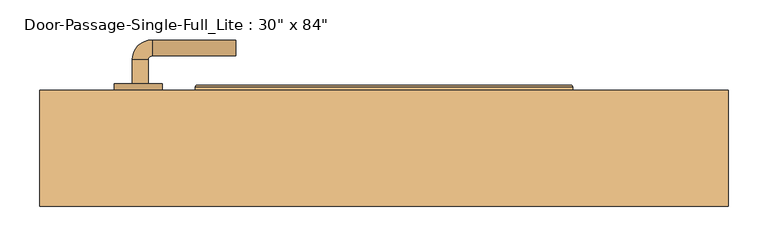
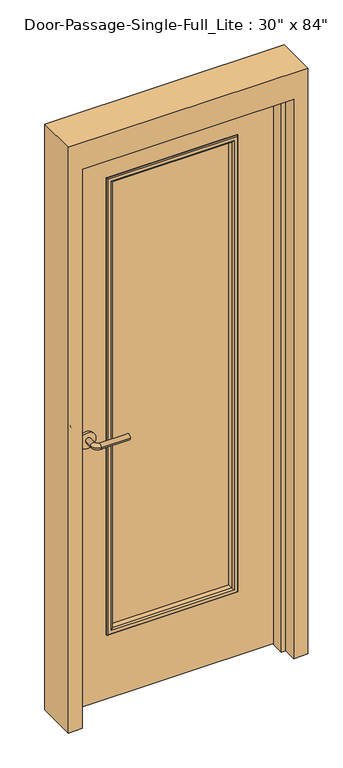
"""IFC4 building model written with IfcOpenShell, lengths in millimetres: door geometry."""

from ifc_helpers import new_model, si_unit, point, frame, frame_2d, origin, place, context, project, spatial, polyline, circle_curve, ellipse_curve, trimmed, segment, composite_curve, outline, extrude, faceted_brep, source, transform, mapped, element, save
from ifc_brep_helpers import plane_surface, cylinder_surface, revolved_surface, advanced_brep


def door_74639fb8(model_context):
    return source(origin(), model_context, "Body", "SolidModel", [
        advanced_brep(
        [(-315.990625, -1.65, 1016.0), (-295.990625, -1.65, 1016.0), (-295.990625, -31.65, 1016.0), (-315.990625, -31.65, 1016.0), (-290.990625, -36.65, 1016.0), (-290.990625, -56.65, 1016.0), (-185.990625, -56.65, 1016.0), (-185.990625, -36.65, 1016.0)],
        [
            (0, 1, circle_curve(frame((-305.990625, -1.65, 1016.0), z_axis=(0.0, 1.0, 0.0), x_axis=(1.0, 0.0, 0.0)), 10.0)),
            (1, 0, circle_curve(frame((-305.990625, -1.65, 1016.0), z_axis=(0.0, 1.0, 0.0), x_axis=(1.0, 0.0, 0.0)), 10.0)),
            (1, 2),
            (2, 3, circle_curve(frame((-305.990625, -31.65, 1016.0), z_axis=(0.0, 1.0, 0.0), x_axis=(1.0, 0.0, 0.0)), 10.0)),
            (3, 0),
            (3, 2, circle_curve(frame((-305.990625, -31.65, 1016.0), z_axis=(0.0, 1.0, 0.0), x_axis=(1.0, 0.0, 0.0)), 10.0)),
            (4, 5, circle_curve(frame((-290.990625, -46.65, 1016.0), z_axis=(-1.0, 0.0, 0.0), x_axis=(0.0, 1.0, 0.0)), 10.0)),
            (5, 3, circle_curve(frame((-290.990625, -31.65, 1016.0), z_axis=(0.0, 0.0, -1.0), x_axis=(-1.0, 0.0, 0.0)), 25.0)),
            (2, 4, circle_curve(frame((-290.990625, -31.65, 1016.0), z_axis=(0.0, 0.0, 1.0), x_axis=(-1.0, 0.0, 0.0)), 5.0)),
            (5, 4, circle_curve(frame((-290.990625, -46.65, 1016.0), z_axis=(-1.0, 0.0, 0.0), x_axis=(0.0, 1.0, 0.0)), 10.0)),
            (6, 7, circle_curve(frame((-185.990625, -46.65, 1016.0), z_axis=(1.0, 0.0, 0.0), x_axis=(0.0, 1.0, 0.0)), 10.0)),
            (7, 6, circle_curve(frame((-185.990625, -46.65, 1016.0), z_axis=(1.0, 0.0, 0.0), x_axis=(0.0, 1.0, 0.0)), 10.0)),
            (4, 7),
            (6, 5),
        ],
        [
            plane_surface(frame((-305.990625, -1.65, 1016.0), z_axis=(0.0, 1.0, 0.0), x_axis=(0.0, 0.0, 1.0))),
            cylinder_surface(frame((-305.990625, -1.65, 1016.0), z_axis=(0.0, 1.0, 0.0), x_axis=(1.0, 0.0, 0.0)), 10.0),
            revolved_surface(trimmed(ellipse_curve(frame((-305.990625, -31.65, 1016.0), z_axis=(0.0, -1.0, 0.0), x_axis=(1.0, 0.0, 0.0)), 10.0, 10.0), [point((-315.990625, -31.65, 1016.0))], [point((-295.990625, -31.65, 1016.0))], True, "CARTESIAN"), (-290.990625, -31.65, 1016.0), (0.0, 0.0, -1.0)),
            revolved_surface(trimmed(ellipse_curve(frame((-305.990625, -31.65, 1016.0), z_axis=(0.0, -1.0, 0.0), x_axis=(1.0, 0.0, 0.0)), 10.0, 10.0), [point((-295.990625, -31.65, 1016.0))], [point((-315.990625, -31.65, 1016.0))], True, "CARTESIAN"), (-290.990625, -31.65, 1016.0), (0.0, 0.0, -1.0)),
            plane_surface(frame((-185.990625, -46.65, 1016.0), z_axis=(1.0, 0.0, 0.0), x_axis=(0.0, 0.0, 1.0))),
            cylinder_surface(frame((-290.990625, -46.65, 1016.0), z_axis=(-1.0, 0.0, 0.0), x_axis=(0.0, 1.0, 0.0)), 10.0),
        ],
        [
            (0, [[1, 2]]),
            (1, [[3, 4, 5, -2]]),
            (1, [[-5, 6, -3, -1]]),
            (2, [[7, 8, -4, 9]]),
            (3, [[10, -9, -6, -8]]),
            (4, [[11, 12]]),
            (5, [[13, -11, 14, -7]]),
            (5, [[-14, -12, -13, -10]]),
        ],
    ),
        extrude(outline(composite_curve([segment(trimmed(circle_curve(frame_2d((1016.0, -308.490625)), 30.0), [point((1016.0, -338.490625))], [point((1016.0, -278.490625))], False, "CARTESIAN"), True, "CONTINUOUS"), segment(trimmed(circle_curve(frame_2d((1016.0, -308.490625)), 30.0), [point((1016.0, -278.490625))], [point((1016.0, -338.490625))], False, "CARTESIAN"), True, "CONTINUOUS")], self_intersect=False)), frame((0.0, -1.65, 0.0), z_axis=(0.0, 1.0, 0.0), x_axis=(0.0, 0.0, 1.0)), (0.0, 0.0, 1.0), 8.0),
        advanced_brep(
        [(-315.990625, 58.8, 1016.0), (-295.990625, 58.8, 1016.0), (-315.990625, 88.8, 1016.0), (-295.990625, 88.8, 1016.0), (-290.990625, 93.8, 1016.0), (-290.990625, 113.8, 1016.0), (-185.990625, 113.8, 1016.0), (-185.990625, 93.8, 1016.0)],
        [
            (0, 1, circle_curve(frame((-305.990625, 58.8, 1016.0), z_axis=(0.0, -1.0, 0.0), x_axis=(1.0, 0.0, 0.0)), 10.0)),
            (1, 0, circle_curve(frame((-305.990625, 58.8, 1016.0), z_axis=(0.0, -1.0, 0.0), x_axis=(1.0, 0.0, 0.0)), 10.0)),
            (0, 2),
            (2, 3, circle_curve(frame((-305.990625, 88.8, 1016.0), z_axis=(0.0, -1.0, 0.0), x_axis=(1.0, 0.0, 0.0)), 10.0)),
            (3, 1),
            (3, 2, circle_curve(frame((-305.990625, 88.8, 1016.0), z_axis=(0.0, -1.0, 0.0), x_axis=(1.0, 0.0, 0.0)), 10.0)),
            (4, 3, circle_curve(frame((-290.990625, 88.8, 1016.0), z_axis=(0.0, 0.0, 1.0), x_axis=(-1.0, 0.0, 0.0)), 5.0)),
            (2, 5, circle_curve(frame((-290.990625, 88.8, 1016.0), z_axis=(0.0, 0.0, -1.0), x_axis=(-1.0, 0.0, 0.0)), 25.0)),
            (5, 4, circle_curve(frame((-290.990625, 103.8, 1016.0), z_axis=(-1.0, 0.0, 0.0), x_axis=(0.0, -1.0, 0.0)), 10.0)),
            (4, 5, circle_curve(frame((-290.990625, 103.8, 1016.0), z_axis=(-1.0, 0.0, 0.0), x_axis=(0.0, -1.0, 0.0)), 10.0)),
            (6, 7, circle_curve(frame((-185.990625, 103.8, 1016.0), z_axis=(1.0, 0.0, 0.0), x_axis=(0.0, -1.0, 0.0)), 10.0)),
            (7, 6, circle_curve(frame((-185.990625, 103.8, 1016.0), z_axis=(1.0, 0.0, 0.0), x_axis=(0.0, -1.0, 0.0)), 10.0)),
            (5, 6),
            (7, 4),
        ],
        [
            plane_surface(frame((-305.990625, 58.8, 1016.0), z_axis=(0.0, -1.0, 0.0), x_axis=(0.0, 0.0, 1.0))),
            cylinder_surface(frame((-305.990625, 58.8, 1016.0), z_axis=(0.0, -1.0, 0.0), x_axis=(1.0, 0.0, 0.0)), 10.0),
            revolved_surface(trimmed(ellipse_curve(frame((-305.990625, 88.8, 1016.0), z_axis=(0.0, -1.0, 0.0), x_axis=(1.0, 0.0, 0.0)), 10.0, 10.0), [point((-315.990625, 88.8, 1016.0))], [point((-295.990625, 88.8, 1016.0))], True, "CARTESIAN"), (-290.990625, 88.8, 1016.0), (0.0, 0.0, -1.0)),
            revolved_surface(trimmed(ellipse_curve(frame((-305.990625, 88.8, 1016.0), z_axis=(0.0, -1.0, 0.0), x_axis=(1.0, 0.0, 0.0)), 10.0, 10.0), [point((-295.990625, 88.8, 1016.0))], [point((-315.990625, 88.8, 1016.0))], True, "CARTESIAN"), (-290.990625, 88.8, 1016.0), (0.0, 0.0, -1.0)),
            plane_surface(frame((-185.990625, 103.8, 1016.0), z_axis=(1.0, 0.0, 0.0), x_axis=(0.0, 0.0, 1.0))),
            cylinder_surface(frame((-290.990625, 103.8, 1016.0), z_axis=(-1.0, 0.0, 0.0), x_axis=(0.0, -1.0, 0.0)), 10.0),
        ],
        [
            (0, [[1, 2]]),
            (1, [[-1, 3, 4, 5]]),
            (1, [[-2, -5, 6, -3]]),
            (2, [[7, -4, 8, 9]]),
            (3, [[-8, -6, -7, 10]]),
            (4, [[11, 12]]),
            (5, [[-9, 13, -12, 14]]),
            (5, [[-10, -14, -11, -13]]),
        ],
    ),
        extrude(outline(composite_curve([segment(trimmed(circle_curve(frame_2d((1016.0, -308.490625)), 30.0), [point((1016.0, -338.490625))], [point((1016.0, -278.490625))], False, "CARTESIAN"), True, "CONTINUOUS"), segment(trimmed(circle_curve(frame_2d((1016.0, -308.490625)), 30.0), [point((1016.0, -278.490625))], [point((1016.0, -338.490625))], False, "CARTESIAN"), True, "CONTINUOUS")], self_intersect=False)), frame((0.0, 50.8, 0.0), z_axis=(0.0, 1.0, 0.0), x_axis=(0.0, 0.0, 1.0)), (0.0, 0.0, 1.0), 8.0),
        extrude(outline(polyline([(228.6, 25.4), (-228.6, 25.4), (-228.6, 31.75), (228.6, 31.75), (228.6, 25.4)])), frame((0.0, 0.0, 254.0), z_axis=(0.0, 0.0, 1.0), x_axis=(1.0, 0.0, 0.0)), (0.0, 0.0, 1.0), 1727.2),
        faceted_brep([(381.0, 1.5875, 0.0), (381.0, 50.8, 0.0), (431.8, 50.8, 0.0), (431.8, -95.25, 0.0), (381.0, -95.25, 0.0), (381.0, -46.0375, 0.0), (365.125, -46.0375, 0.0), (365.125, 1.5875, 0.0), (381.0, 1.5875, 2133.6), (381.0, 50.8, 2133.6), (-381.0, 50.8, 2133.6), (-381.0, 50.8, 0.0), (-431.8, 50.8, 0.0), (-431.8, 50.8, 2235.2), (431.8, 50.8, 2235.2), (431.8, -95.25, 2235.2), (-431.8, -95.25, 2235.2), (-431.8, -95.25, 0.0), (-381.0, -95.25, 0.0), (-381.0, -95.25, 2133.6), (381.0, -95.25, 2133.6), (381.0, -46.0375, 2133.6), (-381.0, -46.0375, 2133.6), (-381.0, -46.0375, 0.0), (-365.125, -46.0375, 0.0), (-365.125, -46.0375, 2117.725), (365.125, -46.0375, 2117.725), (365.125, 1.5875, 2117.725), (-365.125, 1.5875, 2117.725), (-365.125, 1.5875, 0.0), (-381.0, 1.5875, 0.0), (-381.0, 1.5875, 2133.6)], [[[0, 1, 2, 3, 4, 5, 6, 7]], [[1, 0, 8, 9]], [[2, 1, 9, 10, 11, 12, 13, 14]], [[3, 2, 14, 15]], [[4, 3, 15, 16, 17, 18, 19, 20]], [[5, 4, 20, 21]], [[6, 5, 21, 22, 23, 24, 25, 26]], [[7, 6, 26, 27]], [[0, 7, 27, 28, 29, 30, 31, 8]], [[9, 8, 31, 10]], [[20, 19, 22, 21]], [[26, 25, 28, 27]], [[12, 11, 30, 29, 24, 23, 18, 17]], [[11, 10, 31, 30]], [[13, 12, 17, 16]], [[19, 18, 23, 22]], [[25, 24, 29, 28]], [[15, 14, 13, 16]]]),
        extrude(outline(polyline([(2133.6, -381.0), (0.0, -381.0), (0.0, 381.0), (2133.6, 381.0), (2133.6, -381.0)]), holes=[polyline([(1981.2, -228.6), (1981.2, 228.6), (254.0, 228.6), (254.0, -228.6), (1981.2, -228.6)])]), frame((0.0, 6.35, 0.0), z_axis=(0.0, 1.0, 0.0), x_axis=(0.0, 0.0, 1.0)), (0.0, 0.0, 1.0), 44.45),
        advanced_brep(
        [(-228.6, 31.75, 1981.2), (-228.6, 50.8, 1981.2), (-228.6, 50.8, 254.0), (-228.6, 31.75, 254.0), (-216.6, 51.8, 1969.2), (-216.6, 31.75, 1969.2), (-216.6, 31.75, 266.0), (-216.6, 51.8, 266.0), (-221.6, 56.8, 1974.2), (-221.6, 56.8, 261.0), (-236.6, 54.8, 1989.2), (-234.6, 56.8, 1987.2), (-234.6, 56.8, 248.0), (-236.6, 54.8, 246.0), (-236.6, 50.8, 1989.2), (-236.6, 50.8, 246.0), (228.6, 50.8, 254.0), (228.6, 31.75, 254.0), (216.6, 31.75, 266.0), (216.6, 51.8, 266.0), (221.6, 56.8, 261.0), (234.6, 56.8, 248.0), (236.6, 54.8, 246.0), (236.6, 50.8, 246.0), (228.6, 50.8, 1981.2), (228.6, 31.75, 1981.2), (216.6, 31.75, 1969.2), (216.6, 51.8, 1969.2), (221.6, 56.8, 1974.2), (234.6, 56.8, 1987.2), (236.6, 54.8, 1989.2), (236.6, 50.8, 1989.2)],
        [
            (0, 1),
            (1, 2),
            (2, 3),
            (3, 0),
            (4, 5),
            (5, 6),
            (6, 7),
            (7, 4),
            (8, 4, ellipse_curve(frame((-221.6, 51.8, 1974.2), z_axis=(-0.7071067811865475, 0.0, -0.7071067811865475), x_axis=(-0.7071067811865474, 0.0, 0.7071067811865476)), 7.0710678, 5.0)),
            (7, 9, ellipse_curve(frame((-221.6, 51.8, 261.0), z_axis=(-0.7071067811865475, 0.0, 0.7071067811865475), x_axis=(0.7071067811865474, 0.0, 0.7071067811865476)), 7.0710678, 5.0)),
            (9, 8),
            (10, 11, ellipse_curve(frame((-234.6, 54.8, 1987.2), z_axis=(-0.7071067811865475, 0.0, -0.7071067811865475), x_axis=(-0.7071067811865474, 0.0, 0.7071067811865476)), 2.8284271, 2.0)),
            (11, 12),
            (12, 13, ellipse_curve(frame((-234.6, 54.8, 248.0), z_axis=(-0.7071067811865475, 0.0, 0.7071067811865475), x_axis=(0.7071067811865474, 0.0, 0.7071067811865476)), 2.8284271, 2.0)),
            (13, 10),
            (14, 10),
            (13, 15),
            (15, 14),
            (2, 16),
            (16, 17),
            (17, 3),
            (6, 18),
            (18, 19),
            (19, 7),
            (19, 20, ellipse_curve(frame((221.6, 51.8, 261.0), z_axis=(-0.7071067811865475, 0.0, -0.7071067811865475), x_axis=(-0.7071067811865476, 0.0, 0.7071067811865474)), 7.0710678, 5.0)),
            (20, 9),
            (12, 21),
            (21, 22, ellipse_curve(frame((234.6, 54.8, 248.0), z_axis=(-0.7071067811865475, 0.0, -0.7071067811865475), x_axis=(-0.7071067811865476, 0.0, 0.7071067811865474)), 2.8284271, 2.0)),
            (22, 13),
            (22, 23),
            (23, 15),
            (16, 24),
            (24, 25),
            (25, 17),
            (18, 26),
            (26, 27),
            (27, 19),
            (27, 28, ellipse_curve(frame((221.6, 51.8, 1974.2), z_axis=(0.7071067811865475, 0.0, -0.7071067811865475), x_axis=(-0.7071067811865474, 0.0, -0.7071067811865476)), 7.0710678, 5.0)),
            (28, 20),
            (21, 29),
            (29, 30, ellipse_curve(frame((234.6, 54.8, 1987.2), z_axis=(0.7071067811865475, 0.0, -0.7071067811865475), x_axis=(-0.7071067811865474, 0.0, -0.7071067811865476)), 2.8284271, 2.0)),
            (30, 22),
            (30, 31),
            (31, 23),
            (31, 14),
            (1, 24),
            (0, 25),
            (5, 26),
            (4, 27),
            (8, 28),
            (11, 29),
            (10, 30),
        ],
        [
            plane_surface(frame((-228.6, 50.8, 1981.2), z_axis=(-1.0, 0.0, 0.0), x_axis=(0.0, 0.0, -1.0))),
            plane_surface(frame((-216.6, 31.75, 1969.2), z_axis=(1.0, 0.0, 0.0), x_axis=(0.0, 0.0, -1.0))),
            cylinder_surface(frame((-221.6, 51.8, 1981.2), z_axis=(0.0, 0.0, 1.0), x_axis=(-1.0, 0.0, 0.0)), 5.0),
            cylinder_surface(frame((-234.6, 54.8, 1981.2), z_axis=(0.0, 0.0, 1.0), x_axis=(-1.0, 0.0, 0.0)), 2.0),
            plane_surface(frame((-236.6, 54.8, 1989.2), z_axis=(-1.0, 0.0, 0.0), x_axis=(0.0, 0.0, -1.0))),
            plane_surface(frame((-228.6, 50.8, 254.0), z_axis=(0.0, 0.0, -1.0), x_axis=(1.0, 0.0, 0.0))),
            plane_surface(frame((-216.6, 31.75, 266.0), z_axis=(0.0, 0.0, 1.0), x_axis=(1.0, 0.0, 0.0))),
            cylinder_surface(frame((-228.6, 51.8, 261.0), z_axis=(-1.0, 0.0, 0.0), x_axis=(0.0, 0.0, -1.0)), 5.0),
            cylinder_surface(frame((-228.6, 54.8, 248.0), z_axis=(-1.0, 0.0, 0.0), x_axis=(0.0, 0.0, -1.0)), 2.0),
            plane_surface(frame((-236.6, 54.8, 246.0), z_axis=(0.0, 0.0, -1.0), x_axis=(1.0, 0.0, 0.0))),
            plane_surface(frame((228.6, 50.8, 254.0), z_axis=(1.0, 0.0, 0.0), x_axis=(0.0, 0.0, 1.0))),
            plane_surface(frame((216.6, 31.75, 266.0), z_axis=(-1.0, 0.0, 0.0), x_axis=(0.0, 0.0, 1.0))),
            cylinder_surface(frame((221.6, 51.8, 254.0), z_axis=(0.0, 0.0, -1.0), x_axis=(1.0, 0.0, 0.0)), 5.0),
            cylinder_surface(frame((234.6, 54.8, 254.0), z_axis=(0.0, 0.0, -1.0), x_axis=(1.0, 0.0, 0.0)), 2.0),
            plane_surface(frame((236.6, 54.8, 246.0), z_axis=(1.0, 0.0, 0.0), x_axis=(0.0, 0.0, 1.0))),
            plane_surface(frame((236.6, 50.8, 1989.2), z_axis=(0.0, -1.0, 0.0), x_axis=(-1.0, 0.0, 0.0))),
            plane_surface(frame((228.6, 50.8, 1981.2), z_axis=(0.0, 0.0, 1.0), x_axis=(-1.0, 0.0, 0.0))),
            plane_surface(frame((228.6, 31.75, 1981.2), z_axis=(0.0, -1.0, 0.0), x_axis=(-1.0, 0.0, 0.0))),
            plane_surface(frame((216.6, 31.75, 1969.2), z_axis=(0.0, 0.0, -1.0), x_axis=(-1.0, 0.0, 0.0))),
            cylinder_surface(frame((228.6, 51.8, 1974.2), z_axis=(1.0, 0.0, 0.0), x_axis=(0.0, 0.0, 1.0)), 5.0),
            plane_surface(frame((221.6, 56.8, 1974.2), z_axis=(0.0, 1.0, 0.0), x_axis=(-1.0, 0.0, 0.0))),
            cylinder_surface(frame((228.6, 54.8, 1987.2), z_axis=(1.0, 0.0, 0.0), x_axis=(0.0, 0.0, 1.0)), 2.0),
            plane_surface(frame((236.6, 54.8, 1989.2), z_axis=(0.0, 0.0, 1.0), x_axis=(-1.0, 0.0, 0.0))),
        ],
        [
            (0, [[1, 2, 3, 4]]),
            (1, [[5, 6, 7, 8]]),
            (2, [[9, -8, 10, 11]]),
            (3, [[12, 13, 14, 15]]),
            (4, [[16, -15, 17, 18]]),
            (5, [[-3, 19, 20, 21]]),
            (6, [[-7, 22, 23, 24]]),
            (7, [[-10, -24, 25, 26]]),
            (8, [[-14, 27, 28, 29]]),
            (9, [[-17, -29, 30, 31]]),
            (10, [[-20, 32, 33, 34]]),
            (11, [[-23, 35, 36, 37]]),
            (12, [[-25, -37, 38, 39]]),
            (13, [[-28, 40, 41, 42]]),
            (14, [[-30, -42, 43, 44]]),
            (15, [[-31, -44, 45, -18], [46, -32, -19, -2]]),
            (16, [[-33, -46, -1, 47]]),
            (17, [[-21, -34, -47, -4], [48, -35, -22, -6]]),
            (18, [[-36, -48, -5, 49]]),
            (19, [[-38, -49, -9, 50]]),
            (20, [[51, -40, -27, -13], [-26, -39, -50, -11]]),
            (21, [[-41, -51, -12, 52]]),
            (22, [[-43, -52, -16, -45]]),
        ],
    ),
        advanced_brep(
        [(-228.6, 25.4, 254.0), (-228.6, 6.35, 254.0), (-228.6, 6.35, 1981.2), (-228.6, 25.4, 1981.2), (-216.6, 5.35, 266.0), (-216.6, 25.4, 266.0), (-216.6, 25.4, 1969.2), (-216.6, 5.35, 1969.2), (-221.6, 0.35, 261.0), (-221.6, 0.35, 1974.2), (-236.6, 2.35, 246.0), (-234.6, 0.35, 248.0), (-234.6, 0.35, 1987.2), (-236.6, 2.35, 1989.2), (-236.6, 6.35, 246.0), (-236.6, 6.35, 1989.2), (228.6, 6.35, 1981.2), (228.6, 25.4, 1981.2), (216.6, 25.4, 1969.2), (216.6, 5.35, 1969.2), (221.6, 0.35, 1974.2), (234.6, 0.35, 1987.2), (236.6, 2.35, 1989.2), (236.6, 6.35, 1989.2), (228.6, 6.35, 254.0), (228.6, 25.4, 254.0), (216.6, 25.4, 266.0), (216.6, 5.35, 266.0), (221.6, 0.35, 261.0), (234.6, 0.35, 248.0), (236.6, 2.35, 246.0), (236.6, 6.35, 246.0)],
        [
            (0, 1),
            (1, 2),
            (2, 3),
            (3, 0),
            (4, 5),
            (5, 6),
            (6, 7),
            (7, 4),
            (8, 4, ellipse_curve(frame((-221.6, 5.35, 261.0), z_axis=(-0.7071067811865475, 0.0, 0.7071067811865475), x_axis=(-0.7071067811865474, 0.0, -0.7071067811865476)), 7.0710678, 5.0)),
            (7, 9, ellipse_curve(frame((-221.6, 5.35, 1974.2), z_axis=(-0.7071067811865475, 0.0, -0.7071067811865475), x_axis=(0.7071067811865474, 0.0, -0.7071067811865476)), 7.0710678, 5.0)),
            (9, 8),
            (10, 11, ellipse_curve(frame((-234.6, 2.35, 248.0), z_axis=(-0.7071067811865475, 0.0, 0.7071067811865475), x_axis=(-0.7071067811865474, 0.0, -0.7071067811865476)), 2.8284271, 2.0)),
            (11, 12),
            (12, 13, ellipse_curve(frame((-234.6, 2.35, 1987.2), z_axis=(-0.7071067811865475, 0.0, -0.7071067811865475), x_axis=(0.7071067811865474, 0.0, -0.7071067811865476)), 2.8284271, 2.0)),
            (13, 10),
            (14, 10),
            (13, 15),
            (15, 14),
            (2, 16),
            (16, 17),
            (17, 3),
            (6, 18),
            (18, 19),
            (19, 7),
            (19, 20, ellipse_curve(frame((221.6, 5.35, 1974.2), z_axis=(-0.7071067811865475, 0.0, 0.7071067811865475), x_axis=(-0.7071067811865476, 0.0, -0.7071067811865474)), 7.0710678, 5.0)),
            (20, 9),
            (12, 21),
            (21, 22, ellipse_curve(frame((234.6, 2.35, 1987.2), z_axis=(-0.7071067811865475, 0.0, 0.7071067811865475), x_axis=(-0.7071067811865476, 0.0, -0.7071067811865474)), 2.8284271, 2.0)),
            (22, 13),
            (22, 23),
            (23, 15),
            (16, 24),
            (24, 25),
            (25, 17),
            (18, 26),
            (26, 27),
            (27, 19),
            (27, 28, ellipse_curve(frame((221.6, 5.35, 261.0), z_axis=(0.7071067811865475, 0.0, 0.7071067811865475), x_axis=(-0.7071067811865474, 0.0, 0.7071067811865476)), 7.0710678, 5.0)),
            (28, 20),
            (21, 29),
            (29, 30, ellipse_curve(frame((234.6, 2.35, 248.0), z_axis=(0.7071067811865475, 0.0, 0.7071067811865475), x_axis=(-0.7071067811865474, 0.0, 0.7071067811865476)), 2.8284271, 2.0)),
            (30, 22),
            (30, 31),
            (31, 23),
            (31, 14),
            (1, 24),
            (0, 25),
            (5, 26),
            (4, 27),
            (8, 28),
            (11, 29),
            (10, 30),
        ],
        [
            plane_surface(frame((-228.6, 6.35, 254.0), z_axis=(-1.0, 0.0, 0.0), x_axis=(0.0, 0.0, 1.0))),
            plane_surface(frame((-216.6, 25.4, 266.0), z_axis=(1.0, 0.0, 0.0), x_axis=(0.0, 0.0, 1.0))),
            cylinder_surface(frame((-221.6, 5.35, 254.0), z_axis=(0.0, 0.0, -1.0), x_axis=(-1.0, 0.0, 0.0)), 5.0),
            cylinder_surface(frame((-234.6, 2.35, 254.0), z_axis=(0.0, 0.0, -1.0), x_axis=(-1.0, 0.0, 0.0)), 2.0),
            plane_surface(frame((-236.6, 2.35, 246.0), z_axis=(-1.0, 0.0, 0.0), x_axis=(0.0, 0.0, 1.0))),
            plane_surface(frame((-228.6, 6.35, 1981.2), z_axis=(0.0, 0.0, 1.0), x_axis=(1.0, 0.0, 0.0))),
            plane_surface(frame((-216.6, 25.4, 1969.2), z_axis=(0.0, 0.0, -1.0), x_axis=(1.0, 0.0, 0.0))),
            cylinder_surface(frame((-228.6, 5.35, 1974.2), z_axis=(-1.0, 0.0, 0.0), x_axis=(0.0, 0.0, 1.0)), 5.0),
            cylinder_surface(frame((-228.6, 2.35, 1987.2), z_axis=(-1.0, 0.0, 0.0), x_axis=(0.0, 0.0, 1.0)), 2.0),
            plane_surface(frame((-236.6, 2.35, 1989.2), z_axis=(0.0, 0.0, 1.0), x_axis=(1.0, 0.0, 0.0))),
            plane_surface(frame((228.6, 6.35, 1981.2), z_axis=(1.0, 0.0, 0.0), x_axis=(0.0, 0.0, -1.0))),
            plane_surface(frame((216.6, 25.4, 1969.2), z_axis=(-1.0, 0.0, 0.0), x_axis=(0.0, 0.0, -1.0))),
            cylinder_surface(frame((221.6, 5.35, 1981.2), z_axis=(0.0, 0.0, 1.0), x_axis=(1.0, 0.0, 0.0)), 5.0),
            cylinder_surface(frame((234.6, 2.35, 1981.2), z_axis=(0.0, 0.0, 1.0), x_axis=(1.0, 0.0, 0.0)), 2.0),
            plane_surface(frame((236.6, 2.35, 1989.2), z_axis=(1.0, 0.0, 0.0), x_axis=(0.0, 0.0, -1.0))),
            plane_surface(frame((236.6, 6.35, 246.0), z_axis=(0.0, 1.0, 0.0), x_axis=(-1.0, 0.0, 0.0))),
            plane_surface(frame((228.6, 6.35, 254.0), z_axis=(0.0, 0.0, -1.0), x_axis=(-1.0, 0.0, 0.0))),
            plane_surface(frame((228.6, 25.4, 254.0), z_axis=(0.0, 1.0, 0.0), x_axis=(-1.0, 0.0, 0.0))),
            plane_surface(frame((216.6, 25.4, 266.0), z_axis=(0.0, 0.0, 1.0), x_axis=(-1.0, 0.0, 0.0))),
            cylinder_surface(frame((228.6, 5.35, 261.0), z_axis=(1.0, 0.0, 0.0), x_axis=(0.0, 0.0, -1.0)), 5.0),
            plane_surface(frame((221.6, 0.35, 261.0), z_axis=(0.0, -1.0, 0.0), x_axis=(-1.0, 0.0, 0.0))),
            cylinder_surface(frame((228.6, 2.35, 248.0), z_axis=(1.0, 0.0, 0.0), x_axis=(0.0, 0.0, -1.0)), 2.0),
            plane_surface(frame((236.6, 2.35, 246.0), z_axis=(0.0, 0.0, -1.0), x_axis=(-1.0, 0.0, 0.0))),
        ],
        [
            (0, [[1, 2, 3, 4]]),
            (1, [[5, 6, 7, 8]]),
            (2, [[9, -8, 10, 11]]),
            (3, [[12, 13, 14, 15]]),
            (4, [[16, -15, 17, 18]]),
            (5, [[-3, 19, 20, 21]]),
            (6, [[-7, 22, 23, 24]]),
            (7, [[-10, -24, 25, 26]]),
            (8, [[-14, 27, 28, 29]]),
            (9, [[-17, -29, 30, 31]]),
            (10, [[-20, 32, 33, 34]]),
            (11, [[-23, 35, 36, 37]]),
            (12, [[-25, -37, 38, 39]]),
            (13, [[-28, 40, 41, 42]]),
            (14, [[-30, -42, 43, 44]]),
            (15, [[-31, -44, 45, -18], [46, -32, -19, -2]]),
            (16, [[-33, -46, -1, 47]]),
            (17, [[-21, -34, -47, -4], [48, -35, -22, -6]]),
            (18, [[-36, -48, -5, 49]]),
            (19, [[-38, -49, -9, 50]]),
            (20, [[51, -40, -27, -13], [-26, -39, -50, -11]]),
            (21, [[-41, -51, -12, 52]]),
            (22, [[-43, -52, -16, -45]]),
        ],
    ),
    ])


if __name__ == "__main__":
    model = new_model("IFC4")
    model_context = context("Model", 3, world=origin())
    ifc_project = project(units=[si_unit("LENGTHUNIT", "METRE", prefix="MILLI")], contexts=[model_context])
    site = spatial("IfcSite", under=ifc_project)
    building = spatial("IfcBuilding", under=site)
    placement = place(None, origin())
    door_shape = door_74639fb8(model_context)
    element("IfcDoor", 1, ObjectType="Door-Passage-Single-Full_Lite : 30\" x 84\"", at=placement, inside=building, context=model_context, shape_type="MappedRepresentation", body=[
        mapped(door_shape, transform((0.0, 0.0, 0.0), x_axis=(1.0, 0.0, 0.0), y_axis=(0.0, 1.0, 0.0), z_axis=(0.0, 0.0, 1.0))),
    ])
    save(model, "model.ifc")
